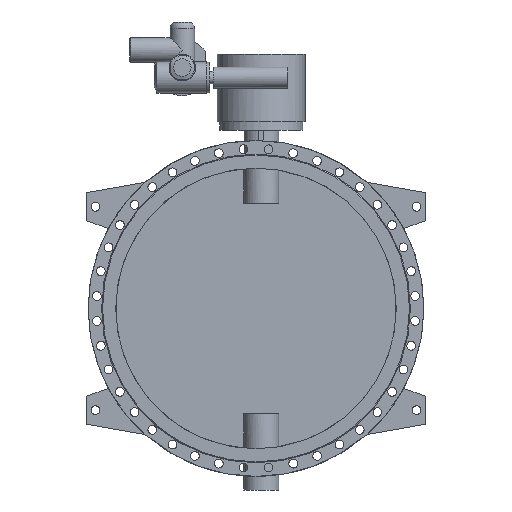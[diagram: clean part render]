
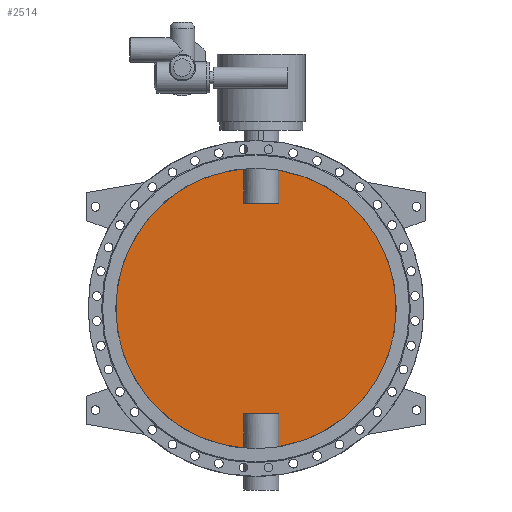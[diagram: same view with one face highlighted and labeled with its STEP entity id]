
A CAD part, front view. The second image highlights one B-rep face of the part: STEP entity #2514.
In plain terms, the highlighted planar face has unit normal (0, -1, 0).
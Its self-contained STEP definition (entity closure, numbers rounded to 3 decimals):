
#2514=ADVANCED_FACE('',(#5197),#5199,.F.);
#5197=FACE_BOUND('',#5198,.T.);
#5198=EDGE_LOOP('',(#6319,#6320,#6321,#6322,#6323,#6324,#6325,#6326));
#5199=PLANE('',#5200);
#5200=AXIS2_PLACEMENT_3D('',#5201,#5202,#5203);
#5201=CARTESIAN_POINT('',(0.,-5.,0.));
#5202=DIRECTION('',(0.,1.,0.));
#5203=DIRECTION('',(1.,0.,0.));
#6319=ORIENTED_EDGE('',*,*,#6881,.T.);
#6320=ORIENTED_EDGE('',*,*,#6886,.T.);
#6321=ORIENTED_EDGE('',*,*,#6887,.T.);
#6322=ORIENTED_EDGE('',*,*,#6888,.T.);
#6323=ORIENTED_EDGE('',*,*,#6883,.T.);
#6324=ORIENTED_EDGE('',*,*,#6889,.T.);
#6325=ORIENTED_EDGE('',*,*,#6890,.T.);
#6326=ORIENTED_EDGE('',*,*,#6891,.T.);
#6881=EDGE_CURVE('',#7887,#7888,#7889,.F.);
#6883=EDGE_CURVE('',#7892,#7890,#7893,.F.);
#6886=EDGE_CURVE('',#7888,#7897,#7898,.T.);
#6887=EDGE_CURVE('',#7897,#7899,#7900,.F.);
#6888=EDGE_CURVE('',#7899,#7892,#7901,.F.);
#6889=EDGE_CURVE('',#7890,#7902,#7903,.F.);
#6890=EDGE_CURVE('',#7902,#7904,#7905,.F.);
#6891=EDGE_CURVE('',#7904,#7887,#7906,.T.);
#7887=VERTEX_POINT('',#12057);
#7888=VERTEX_POINT('',#12058);
#7889=CIRCLE('',#12059,800.);
#7890=VERTEX_POINT('',#12063);
#7892=VERTEX_POINT('',#12162);
#7893=CIRCLE('',#12163,800.);
#7897=VERTEX_POINT('',#12262);
#7898=LINE('',#12263,#12264);
#7899=VERTEX_POINT('',#12266);
#7900=LINE('',#12267,#12268);
#7901=LINE('',#12270,#12271);
#7902=VERTEX_POINT('',#12273);
#7903=LINE('',#12274,#12275);
#7904=VERTEX_POINT('',#12277);
#7905=LINE('',#12278,#12279);
#7906=LINE('',#12281,#12282);
#12057=CARTESIAN_POINT('',(129.875,-5.,-789.387));
#12058=CARTESIAN_POINT('',(129.875,-5.,789.387));
#12059=AXIS2_PLACEMENT_3D('',#12060,#12061,#12062);
#12060=CARTESIAN_POINT('',(0.,-5.,0.));
#12061=DIRECTION('',(0.,1.,0.));
#12062=DIRECTION('',(0.162,0.,0.987));
#12063=CARTESIAN_POINT('',(-69.875,-5.,-796.943));
#12162=CARTESIAN_POINT('',(-69.875,-5.,796.943));
#12163=AXIS2_PLACEMENT_3D('',#12164,#12165,#12166);
#12164=CARTESIAN_POINT('',(0.,-5.,0.));
#12165=DIRECTION('',(0.,1.,0.));
#12166=DIRECTION('',(-0.087,0.,-0.996));
#12262=CARTESIAN_POINT('',(129.875,-5.,600.));
#12263=CARTESIAN_POINT('',(129.875,-5.,789.387));
#12264=VECTOR('',#12265,1.);
#12265=DIRECTION('',(0.,0.,-1.));
#12266=CARTESIAN_POINT('',(-69.875,-5.,600.));
#12267=CARTESIAN_POINT('',(-69.875,-5.,600.));
#12268=VECTOR('',#12269,1.);
#12269=DIRECTION('',(1.,0.,0.));
#12270=CARTESIAN_POINT('',(-69.875,-5.,796.943));
#12271=VECTOR('',#12272,1.);
#12272=DIRECTION('',(0.,0.,-1.));
#12273=CARTESIAN_POINT('',(-69.875,-5.,-600.));
#12274=CARTESIAN_POINT('',(-69.875,-5.,-600.));
#12275=VECTOR('',#12276,1.);
#12276=DIRECTION('',(0.,0.,-1.));
#12277=CARTESIAN_POINT('',(129.875,-5.,-600.));
#12278=CARTESIAN_POINT('',(129.875,-5.,-600.));
#12279=VECTOR('',#12280,1.);
#12280=DIRECTION('',(-1.,0.,0.));
#12281=CARTESIAN_POINT('',(129.875,-5.,-600.));
#12282=VECTOR('',#12283,1.);
#12283=DIRECTION('',(0.,0.,-1.));
